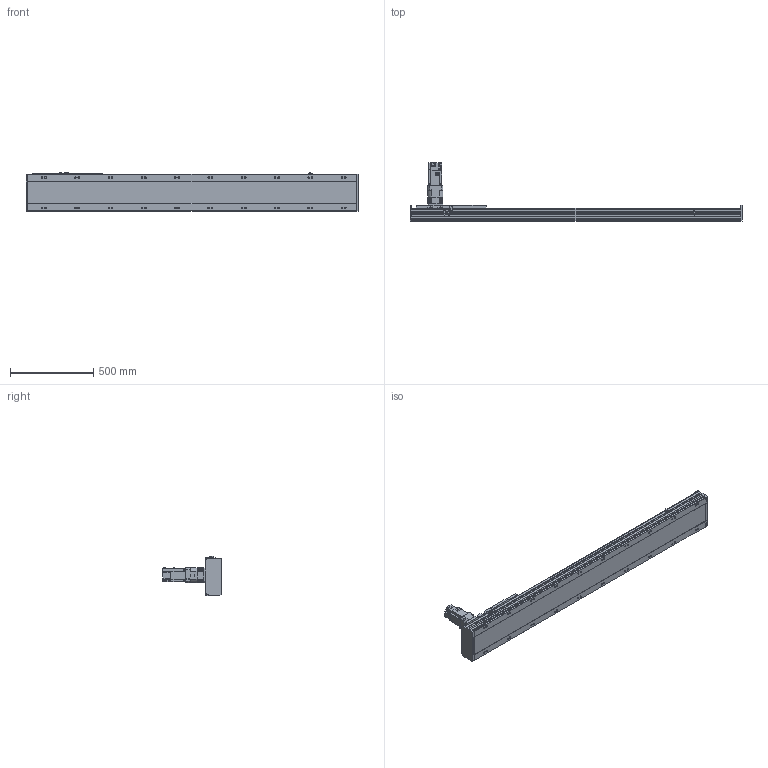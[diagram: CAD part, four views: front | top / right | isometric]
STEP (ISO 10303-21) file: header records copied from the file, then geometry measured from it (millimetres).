
FILE_DESCRIPTION(/* description */ ('STEP AP214'),/* implementation_level */ '2;1');
FILE_NAME(/* name */ 'SHS22A-L13-S1500-BC-T75-C1-N(0)',/* time_stamp */ '2022-06-15T02:26:29+02:00',/* author */ ('License CC BY-ND 4.0'),/* organization */ ('CADENAS'),/* preprocessor_version */ 'ST-DEVELOPER v18.102',/* originating_system */ 'PARTsolutions',/* authorisation */ ' ');
FILE_SCHEMA (('AUTOMOTIVE_DESIGN {1 0 10303 214 3 1 1}'));
Length unit declared in the file: millimetre
Products named in the file (7): SHS22A-L13-S1500-BC-T75-C1-N(0); PSC140-sensor; SHS22A-S1500_body2; T75-p1; SHS22A-S1500_body3; SHS22A-S1500_slider; SHS22A-L13-S1500-BC-T75-C1(0)_body
Assembly tree (13 placements, depth 2):
  SHS22A-L13-S1500-BC-T75-C1-N(0)
    PSC140-sensor  x3
    SHS22A-S1500_body2  x6
    T75-p1
    SHS22A-S1500_body3
    SHS22A-S1500_slider
    SHS22A-L13-S1500-BC-T75-C1(0)_body
Bounding box: 1994 x 350.8 x 238.4 mm (x, y, z)
Volume: 23331747.7 mm3; surface area: 2471355.3 mm2
Topology: 13 solids, 13 shells, 1821 faces, 4695 edges, 3076 vertices
Faces by surface type: plane 1320, cylinder 407, cone 85, torus 9
Full cylindrical faces by diameter (mm): 2.8 x3, 4.2 x2, 4.6 x3, 4.917 x4, 5 x4, 5.6 x24, 6 x31, 6.6 x24, 6.647 x8, 6.8 x9, 7.75 x6, 8 x3, 8.376 x20, 8.5 x20, 10 x4, 11 x4, 12 x24, 14 x20, 22 x1, 24.1 x1, 28 x1, 28.2 x1, 28.8 x1, 48.542 x1, 68 x1, 70 x1, 78 x1, 80 x2
Entity records: 29722 total; most frequent: CARTESIAN_POINT 5273, DIRECTION 5027, ORIENTED_EDGE 4620, EDGE_CURVE 2310, AXIS2_PLACEMENT_3D 1732, VERTEX_POINT 1646, LINE 1563, VECTOR 1563
